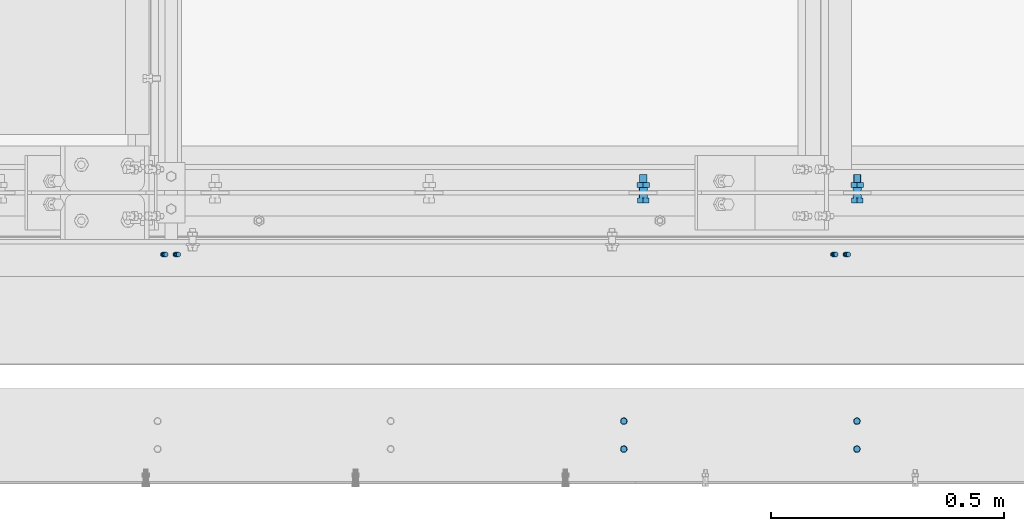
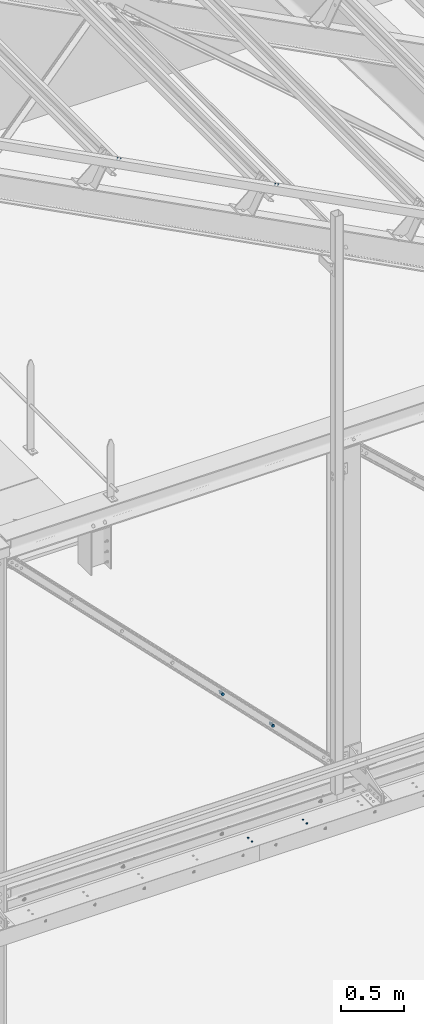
# One storey, part 223 of 362: 6 mechanical fasteners.
"""IFC2X3 building model written with IfcOpenShell, lengths in millimetres."""

from ifc_helpers import new_model, si_unit, frame, origin_with_axes, origin_2d_with_axis, place, context, subcontext, project, spatial, polyline, circle, outline, extrude, source, transform, mapped, material, type_object, element, save


model = new_model("IFC2X3")

# Units and contexts
model_context = context("Model", 3, precision=1e-05, world=origin_with_axes())
body_context = subcontext(model_context, "Body", "Model", "MODEL_VIEW")
ifc_project = project(units=[si_unit("LENGTHUNIT", "METRE", prefix="MILLI"), si_unit("AREAUNIT", "SQUARE_METRE"), si_unit("VOLUMEUNIT", "CUBIC_METRE"), si_unit("MASSUNIT", "GRAM", prefix="KILO"), si_unit("TIMEUNIT", "SECOND"), si_unit("PLANEANGLEUNIT", "RADIAN"), si_unit("SOLIDANGLEUNIT", "STERADIAN"), si_unit("THERMODYNAMICTEMPERATUREUNIT", "DEGREE_CELSIUS"), si_unit("LUMINOUSINTENSITYUNIT", "LUMEN")], contexts=[model_context])

# Site, building, storey
site_placement = place(None, origin_with_axes())
site = spatial("IfcSite", under=ifc_project, at=site_placement, Name="Undefined", CompositionType="ELEMENT")
building_placement = place(site_placement, origin_with_axes())
building = spatial("IfcBuilding", under=site, at=building_placement, Name="Undefined", CompositionType="ELEMENT")
storey_placement = place(building_placement, origin_with_axes())
storey = spatial("IfcBuildingStorey", under=building, at=storey_placement, Name="Undefined", CompositionType="ELEMENT", Elevation=0.0)

# Mechanical fasteners
ifc_material_1 = material(Name="8.8-SB-ZINGUE")
mechanical_fastener_type = type_object("IfcMechanicalFastenerType", Name="Bolt assembly")
shared_shape_1 = source(origin_with_axes(), body_context, "Body", "SweptSolid", [
    extrude(circle(Radius=7.0, at=origin_2d_with_axis()), frame((0.0, -8.5, 0.0), z_axis=(0.0, 1.0, 0.0), x_axis=(1.0, 0.0, 0.0)), (0.0, 0.0, 1.0), 8.6),
])
for number, where, z_axis, x_axis, name in (
    (1, (15464.9989211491, -490.0, 5229.99824538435), (-1.0, 0.0, 0.0), (0.0, -1.0, 0.0), "Bolt assembly"),
    (2, (14964.9989211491, -490.0, 5229.99824538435), (-1.0, 0.0, 0.0), (0.0, -1.0, 0.0), "Bolt assembly"),
):
    element("IfcMechanicalFastener", number, at=place(storey_placement, frame(where, z_axis=z_axis, x_axis=x_axis)), inside=storey, type_object=mechanical_fastener_type, material=ifc_material_1, Name=name, NominalDiameter=12.0, NominalLength=8.5, context=body_context, shape_type="MappedRepresentation", body=[
        mapped(shared_shape_1, transform((0.0, 0.0, 0.0))),
        mapped(shared_shape_1, transform((60.0, 0.0, 0.0))),
    ])
shared_shape_2 = source(origin_with_axes(), body_context, "Body", "SweptSolid", [
    extrude(circle(Radius=9.0, at=origin_2d_with_axis()), frame((0.0, -10.9000000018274, 0.0), z_axis=(0.0, 1.0, 0.0), x_axis=(1.0, 0.0, 0.0)), (0.0, 0.0, 1.0), 6.0),
    extrude(circle(Radius=9.0, at=origin_2d_with_axis()), frame((0.0, 4.9000000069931, 0.0), z_axis=(0.0, 1.0, 0.0), x_axis=(1.0, 0.0, 0.0)), (0.0, 0.0, 1.0), 6.1),
    extrude(circle(Radius=9.0, at=origin_2d_with_axis()), frame((0.0, -3.99999923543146, 0.0), z_axis=(0.0, 1.0, 0.0), x_axis=(1.0, 0.0, 0.0)), (0.0, 0.0, 1.0), 8.0),
    extrude(outline(polyline([(13.85640646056, 0.0), (6.92820323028, 12.0000000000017), (-6.92820323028, 12.0000000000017), (-13.85640646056, 0.0), (-6.92820323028, -12.0000000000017), (6.92820323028, -12.0000000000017), (13.85640646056, 0.0)])), frame((0.0, -21.5600000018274, 0.0), z_axis=(0.0, 1.0, 0.0), x_axis=(1.0, 0.0, 0.0)), (0.0, 0.0, 1.0), 10.56),
    extrude(circle(Radius=8.0, at=origin_2d_with_axis()), frame((0.0, -11.0000000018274, 0.0), z_axis=(0.0, 1.0, 0.0), x_axis=(1.0, 0.0, 0.0)), (0.0, 0.0, 1.0), 50.0),
    extrude(outline(polyline([(15.3344231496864, 0.0), (7.6672115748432, 13.2800000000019), (-7.6672115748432, 13.2800000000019), (-15.3344231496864, 0.0), (-7.6672115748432, -13.2800000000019), (7.6672115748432, -13.2800000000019), (15.3344231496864, 0.0)])), frame((0.0, 11.0000000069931, 0.0), z_axis=(0.0, 1.0, 0.0), x_axis=(1.0, 0.0, 0.0)), (0.0, 0.0, 1.0), 10.56),
])
for number, where, z_axis, x_axis, name in (
    (3, (15465.7099829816, 0.0, 5846.32293470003), (1.0, 0.0, 0.0), (0.0, 0.0, -1.0), "Bolt assembly"),
    (4, (15006.5372151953, 0.0, 6310.66143241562), (1.0, 0.0, 0.0), (0.0, 0.0, -1.0), "Bolt assembly"),
):
    element("IfcMechanicalFastener", number, at=place(storey_placement, frame(where, z_axis=z_axis, x_axis=x_axis)), inside=storey, type_object=mechanical_fastener_type, material=ifc_material_1, Name=name, NominalDiameter=16.0, NominalLength=50.0, context=body_context, shape_type="MappedRepresentation", body=[
        mapped(shared_shape_2, transform((0.0, 0.0, 0.0))),
    ])
ifc_material_2 = material(Name="6.8")
shared_shape_3 = source(origin_with_axes(), body_context, "Body", "SweptSolid", [
    extrude(circle(Radius=4.0, at=origin_2d_with_axis()), frame((0.0, 0.0, 0.0), z_axis=(0.0, 1.0, 0.0), x_axis=(1.0, 0.0, 0.0)), (0.0, 0.0, 1.0), 7.1),
    extrude(outline(polyline([(5.7735026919, 0.0), (2.88675134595, 5.00000000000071), (-2.88675134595, 5.00000000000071), (-5.7735026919, 0.0), (-2.88675134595, -5.00000000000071), (2.88675134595, -5.00000000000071), (5.7735026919, 0.0)])), frame((0.0, -3.99999923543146, 0.0), z_axis=(0.0, 1.0, 0.0), x_axis=(1.0, 0.0, 0.0)), (0.0, 0.0, 1.0), 4.0),
    extrude(circle(Radius=3.0, at=origin_2d_with_axis()), frame((0.0, 0.0, 0.0), z_axis=(0.0, 1.0, 0.0), x_axis=(1.0, 0.0, 0.0)), (0.0, 0.0, 1.0), 16.0),
    extrude(outline(polyline([(5.7735026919, 0.0), (2.88675134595, 5.00000000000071), (-2.88675134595, 5.00000000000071), (-5.7735026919, 0.0), (-2.88675134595, -5.00000000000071), (2.88675134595, -5.00000000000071), (5.7735026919, 0.0)])), frame((0.0, 7.0, 0.0), z_axis=(0.0, 1.0, 0.0), x_axis=(1.0, 0.0, 0.0)), (0.0, 0.0, 1.0), 5.2),
])
for number, where, z_axis, x_axis, name in (
    (5, (13994.6771992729, -132.49992038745, 11899.2086921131), (-0.886082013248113, 9.38091927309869e-07, 0.463528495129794), (0.0, 1.0, 0.0), "Bolt assembly"),
    (6, (15431.9772011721, -132.499920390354, 11147.3263241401), (-0.886082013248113, 9.38091927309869e-07, 0.463528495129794), (0.0, 1.0, 0.0), "Bolt assembly"),
):
    element("IfcMechanicalFastener", number, at=place(storey_placement, frame(where, z_axis=z_axis, x_axis=x_axis)), inside=storey, type_object=mechanical_fastener_type, material=ifc_material_2, Name=name, NominalDiameter=6.0, NominalLength=16.0, context=body_context, shape_type="MappedRepresentation", body=[
        mapped(shared_shape_3, transform((0.0, 0.0, -15.0))),
        mapped(shared_shape_3, transform((0.0, -3.63797880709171e-12, 15.0000000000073))),
    ])

save(model, "model.ifc")
